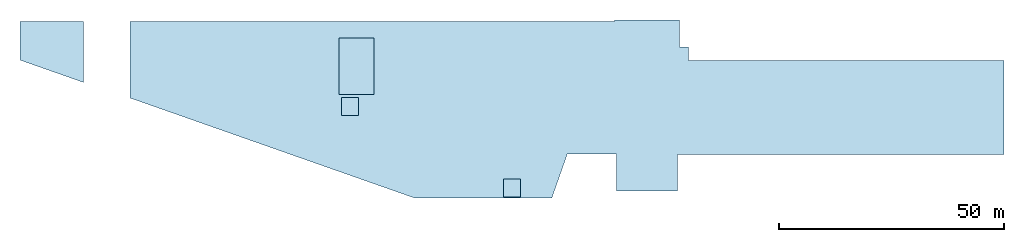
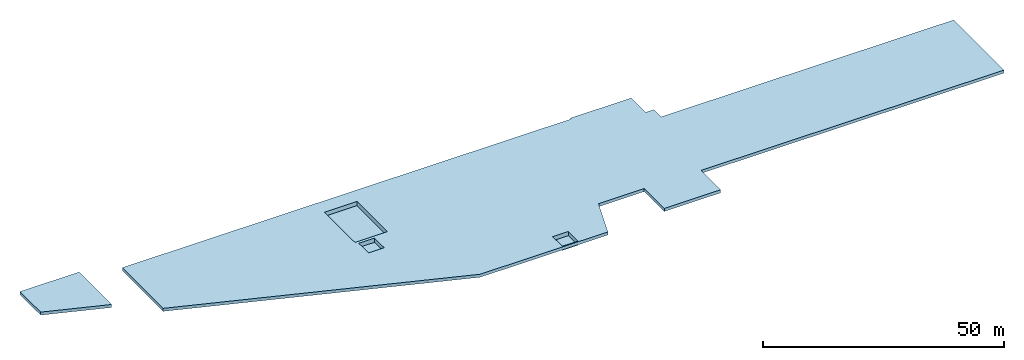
# One storey: 2 slabs.
"""IFC2X3 building model written with IfcOpenShell, lengths in millimetres."""

from ifc_helpers import new_model, si_unit, origin, place, context, project, spatial, faceted_brep, material, element, save


model = new_model("IFC2X3")

# Units and contexts
context_of_model = context(None, 3, precision=1e-05, world=origin())
ifc_project = project(units=[si_unit("LENGTHUNIT", "METRE", prefix="MILLI")], contexts=[context_of_model])

# Building, storey
building = spatial("IfcBuilding", under=ifc_project, Name="Building", CompositionType="ELEMENT")
storey = spatial("IfcBuildingStorey", under=building, Name="B1 SLAB", CompositionType="ELEMENT")

# Slabs
ifc_material_1 = material(Name="C4000")
slab_1_placement = place(None, origin())
element("IfcSlab", 1, at=slab_1_placement, inside=storey, material=ifc_material_1, Name="Wall170", PredefinedType="FLOOR", context=context_of_model, shape_type="Brep", body=[
    faceted_brep([(-133219.2, 36914.4, -2762.0), (-133219.2, 28348.1, -2762.0), (-133219.2, 28348.1, -2000.0), (-133219.2, 36914.4, -2000.0), (-119085.6, 23378.6, -2762.0), (-119085.6, 23378.6, -2000.0), (-119085.6, 36914.4, -2762.0), (-119085.6, 36914.4, -2000.0)], [[[0, 1, 2, 3]], [[1, 4, 5, 2]], [[4, 6, 7, 5]], [[6, 0, 3, 7]], [[3, 2, 5, 7]], [[0, 6, 4, 1]]]),
])
ifc_material_2 = material(Name="C4000")
slab_2_placement = place(None, origin())
element("IfcSlab", 2, at=slab_2_placement, inside=storey, material=ifc_material_2, Name="Wall212", PredefinedType="FLOOR", context=context_of_model, shape_type="Brep", body=[
    faceted_brep([(15250.0, 28250.0, -5262.0), (15250.0, 16000.0, -5262.0), (15250.0, 16000.0, -4500.0), (15250.0, 28250.0, -4500.0), (-2000.0, 16000.0, -5262.0), (-2000.0, 16000.0, -4500.0), (-2000.0, 31250.0, -5262.0), (-2000.0, 31250.0, -4500.0), (13250.0, 31250.0, -5262.0), (13250.0, 31250.0, -4500.0), (13250.0, 37250.0, -5262.0), (13250.0, 37250.0, -4500.0), (-1250.0, 37250.0, -5262.0), (-1250.0, 37250.0, -4500.0), (-1250.0, 36902.4, -5262.0), (-1250.0, 36902.4, -4500.0), (-108750.0, 36902.4, -5262.0), (-108750.0, 36902.4, -4500.0), (-108750.0, 19918.8, -5262.0), (-108750.0, 19918.8, -4500.0), (-45684.6, -2250.0, -5262.0), (-45684.6, -2250.0, -4500.0), (-15126.1, -2250.0, -5262.0), (-15126.1, -2250.0, -4500.0), (-11681.2, 7550.0, -5262.0), (-11681.2, 7550.0, -4500.0), (-750.0, 7550.0, -5262.0), (-750.0, 7550.0, -4500.0), (-750.0, -750.0, -5262.0), (-750.0, -750.0, -4500.0), (12000.0, -750.0, -5262.0), (12000.0, -750.0, -4500.0), (12750.0, -750.0, -5262.0), (12750.0, -750.0, -4500.0), (12750.0, 7350.0, -5262.0), (12750.0, 7350.0, -4500.0), (85250.0, 7350.0, -5262.0), (85250.0, 7350.0, -4500.0), (85250.0, 28250.0, -5262.0), (85250.0, 28250.0, -4500.0), (-61884.0, 20000.0, -5262.0), (-58116.0, 20000.0, -5262.0), (-58116.0, 20000.0, -4500.0), (-61884.0, 20000.0, -4500.0), (-58116.0, 16000.0, -5262.0), (-58116.0, 16000.0, -4500.0), (-61884.0, 16000.0, -5262.0), (-61884.0, 16000.0, -4500.0), (-62418.0, 20700.0, -5262.0), (-62418.0, 33300.0, -5262.0), (-62418.0, 33300.0, -4500.0), (-62418.0, 20700.0, -4500.0), (-54650.0, 33300.0, -5262.0), (-54650.0, 33300.0, -4500.0), (-54650.0, 20700.0, -5262.0), (-54650.0, 20700.0, -4500.0), (-25884.0, 2000.0, -5262.0), (-22116.0, 2000.0, -5262.0), (-22116.0, 2000.0, -4500.0), (-25884.0, 2000.0, -4500.0), (-22116.0, -2000.0, -5262.0), (-22116.0, -2000.0, -4500.0), (-25884.0, -2000.0, -5262.0), (-25884.0, -2000.0, -4500.0), (-61884.0, 20000.0, -5566.8), (-61884.0, 16000.0, -5566.8), (-61884.0, 16000.0, -4500.0), (-61884.0, 20000.0, -4500.0), (-58116.0, 16000.0, -5566.8), (-58116.0, 16000.0, -4500.0), (-58116.0, 20000.0, -5566.8), (-58116.0, 20000.0, -4500.0), (13250.0, 31250.0, -5566.8), (-2000.0, 31250.0, -5566.8), (-2000.0, 31250.0, -4500.0), (13250.0, 31250.0, -4500.0), (-2000.0, 16000.0, -5566.8), (-2000.0, 16000.0, -4500.0), (15250.0, 16000.0, -5566.8), (15250.0, 16000.0, -4500.0), (15250.0, 28250.0, -5566.8), (15250.0, 28250.0, -4500.0), (15250.0, 31250.0, -5566.8), (15250.0, 31250.0, -4500.0), (-62418.0, 20700.0, -5566.8), (-54650.0, 20700.0, -5566.8), (-54650.0, 20700.0, -4500.0), (-62418.0, 20700.0, -4500.0), (-54650.0, 33300.0, -5566.8), (-54650.0, 33300.0, -4500.0), (-62418.0, 33300.0, -5566.8), (-62418.0, 33300.0, -4500.0), (-25884.0, 2000.0, -5566.8), (-25884.0, -2000.0, -5566.8), (-25884.0, -2000.0, -4500.0), (-25884.0, 2000.0, -4500.0), (-22116.0, -2000.0, -5566.8), (-22116.0, -2000.0, -4500.0), (-22116.0, 2000.0, -5566.8), (-22116.0, 2000.0, -4500.0)], [[[0, 1, 2, 3]], [[1, 4, 5, 2]], [[4, 6, 7, 5]], [[6, 8, 9, 7]], [[8, 10, 11, 9]], [[10, 12, 13, 11]], [[12, 14, 15, 13]], [[14, 16, 17, 15]], [[16, 18, 19, 17]], [[18, 20, 21, 19]], [[20, 22, 23, 21]], [[22, 24, 25, 23]], [[24, 26, 27, 25]], [[26, 28, 29, 27]], [[28, 30, 31, 29]], [[30, 32, 33, 31]], [[32, 34, 35, 33]], [[34, 36, 37, 35]], [[36, 38, 39, 37]], [[38, 0, 3, 39]], [[40, 41, 42, 43]], [[41, 44, 45, 42]], [[44, 46, 47, 45]], [[46, 40, 43, 47]], [[48, 49, 50, 51]], [[49, 52, 53, 50]], [[52, 54, 55, 53]], [[54, 48, 51, 55]], [[56, 57, 58, 59]], [[57, 60, 61, 58]], [[60, 62, 63, 61]], [[62, 56, 59, 63]], [[3, 2, 5, 7, 9, 11, 13, 15, 17, 19, 21, 23, 25, 27, 29, 31, 33, 35, 37, 39], [43, 42, 45, 47], [51, 50, 53, 55], [59, 58, 61, 63]], [[0, 38, 36, 34, 32, 30, 28, 26, 24, 22, 20, 18, 16, 14, 12, 10, 8, 6, 4, 1], [40, 46, 44, 41], [48, 54, 52, 49], [56, 62, 60, 57]], [[64, 65, 66, 67]], [[65, 68, 69, 66]], [[68, 70, 71, 69]], [[70, 64, 67, 71]], [[67, 66, 69, 71]], [[64, 70, 68, 65]], [[72, 73, 74, 75]], [[73, 76, 77, 74]], [[76, 78, 79, 77]], [[78, 80, 81, 79]], [[80, 82, 83, 81]], [[82, 72, 75, 83]], [[75, 74, 77, 79, 81, 83]], [[72, 82, 80, 78, 76, 73]], [[84, 85, 86, 87]], [[85, 88, 89, 86]], [[88, 90, 91, 89]], [[90, 84, 87, 91]], [[87, 86, 89, 91]], [[84, 90, 88, 85]], [[92, 93, 94, 95]], [[93, 96, 97, 94]], [[96, 98, 99, 97]], [[98, 92, 95, 99]], [[95, 94, 97, 99]], [[92, 98, 96, 93]]]),
])

save(model, "model.ifc")
